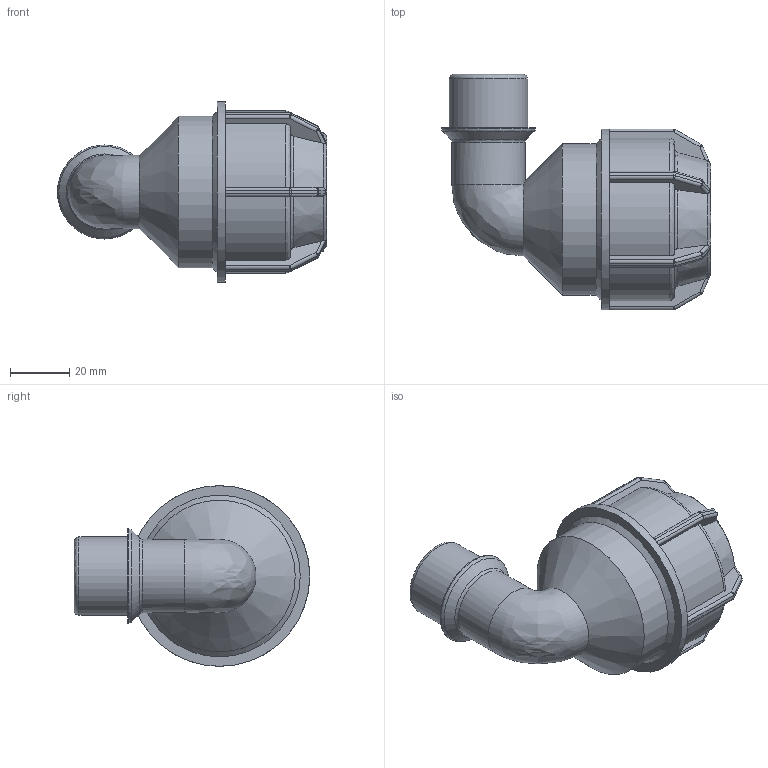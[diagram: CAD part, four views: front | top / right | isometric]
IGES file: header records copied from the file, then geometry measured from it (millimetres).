
Global section: file name: 148500032007.ipt; native system: Autodesk Inventor 2015; preprocessor: unknown; author: KIM; date: 20180409.131247; units: millimetre
Bounding box: 90.86 x 79.5 x 61 mm (x, y, z)
Volume: 84228.2 mm3; surface area: 29290.9 mm2
Topology: 1 solids, 1 shells, 213 faces, 514 edges, 300 vertices
Faces by surface type: plane 98, cylinder 59, sphere 24, revolution 22, cone 9, bspline 1
Full cylindrical faces by diameter (mm): 24.722 x1, 26.441 x1, 31.729 x1, 51.2 x1, 61 x1
